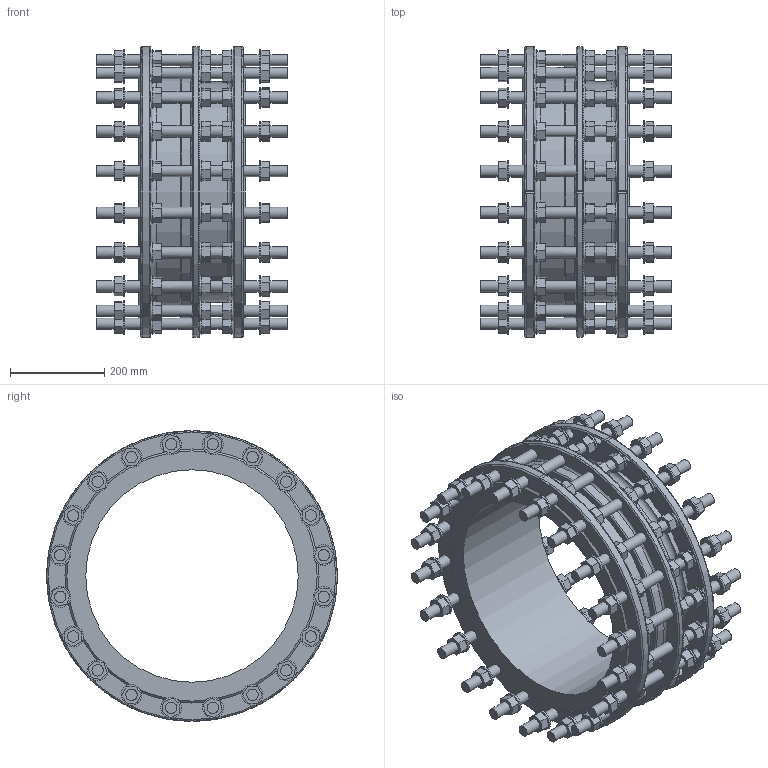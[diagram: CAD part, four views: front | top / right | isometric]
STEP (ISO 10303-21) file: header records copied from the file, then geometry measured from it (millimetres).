
FILE_DESCRIPTION (( 'STEP AP203' ), '1' );
FILE_NAME ('O_265_911_DN450_0XXXXX01_L=225_REV01.step', '2024-12-12T08:05:38', ( '' ), ( '' ), 'SwSTEP 2.0', 'SolidWorks 2022', '' );
FILE_SCHEMA (( 'CONFIG_CONTROL_DESIGN' ));
Length unit declared in the file: millimetre
Products named in the file (1): O_265_911_DN450_0XXXXX01_L=225_REV01
Bounding box: 405 x 615 x 614.97 mm (x, y, z)
Volume: 18346114.8 mm3; surface area: 2063102.6 mm2
Topology: 1 solids, 1 shells, 1209 faces, 2964 edges, 1967 vertices
Faces by surface type: plane 959, cylinder 231, torus 16, cone 3
Full cylindrical faces by diameter (mm): 24 x120, 44 x100, 450 x1, 466 x1, 500 x1
Entity records: 34108 total; most frequent: CARTESIAN_POINT 6673, DIRECTION 5549, ORIENTED_EDGE 5182, EDGE_CURVE 2591, LINE 1925, VECTOR 1925, VERTEX_POINT 1824, AXIS2_PLACEMENT_3D 1812
